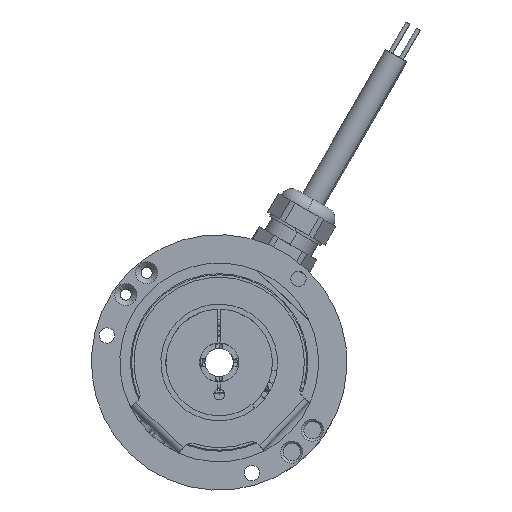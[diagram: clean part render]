
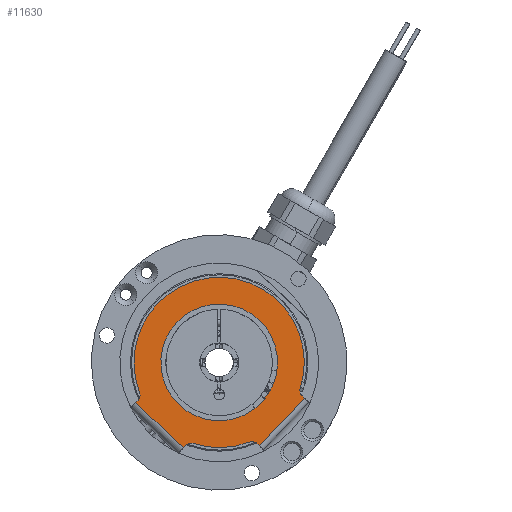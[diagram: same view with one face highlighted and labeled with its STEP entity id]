
A CAD part, left-side view. The second image highlights one B-rep face of the part: STEP entity #11630.
In plain terms, the highlighted planar face has unit normal (-1, 0, 0).
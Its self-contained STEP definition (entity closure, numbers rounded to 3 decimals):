
#2858 = VERTEX_POINT ( 'NONE', #20457 ) ;
#2882 = VERTEX_POINT ( 'NONE', #20460 ) ;
#2920 = VERTEX_POINT ( 'NONE', #6247 ) ;
#2973 = VERTEX_POINT ( 'NONE', #6027 ) ;
#3029 = VERTEX_POINT ( 'NONE', #6066 ) ;
#3063 = EDGE_LOOP ( 'NONE', ( #8996, #8871, #9002, #9046, #8956, #8932, #8914, #9054, #8942, #9048, #8921, #8882, #9035 ) ) ;
#3274 = EDGE_LOOP ( 'NONE', ( #9015, #9010 ) ) ;
#5596 = AXIS2_PLACEMENT_3D ( 'NONE', #10215, #10216, #10217 ) ;
#5597 = AXIS2_PLACEMENT_3D ( 'NONE', #10220, #10221, #10222 ) ;
#5598 = AXIS2_PLACEMENT_3D ( 'NONE', #10223, #10224, #10225 ) ;
#5599 = AXIS2_PLACEMENT_3D ( 'NONE', #10232, #10233, #10234 ) ;
#5600 = AXIS2_PLACEMENT_3D ( 'NONE', #10237, #10238, #10239 ) ;
#6027 = CARTESIAN_POINT ( 'NONE',  ( -2.2, -24.066, -10.086 ) ) ;
#6066 = CARTESIAN_POINT ( 'NONE',  ( -2.2, -23.37, -9.425 ) ) ;
#6247 = CARTESIAN_POINT ( 'NONE',  ( -2.2, -10.636, -22.845 ) ) ;
#7024 = CARTESIAN_POINT ( 'NONE',  ( -2.2, 0., 0. ) ) ;
#7027 = PLANE ( 'NONE',  #22266 ) ;
#7029 = DIRECTION ( 'NONE',  ( -1., 0., 0. ) ) ;
#7030 = DIRECTION ( 'NONE',  ( 0., -0.725, -0.688 ) ) ;
#8183 = CARTESIAN_POINT ( 'NONE',  ( -2.2, 11.914, 11.306 ) ) ;
#8243 = CARTESIAN_POINT ( 'NONE',  ( -2.2, -11.914, -11.306 ) ) ;
#8278 = CARTESIAN_POINT ( 'NONE',  ( -2.2, 9.425, -23.37 ) ) ;
#8360 = CARTESIAN_POINT ( 'NONE',  ( -2.2, 17.409, 16.521 ) ) ;
#8410 = CARTESIAN_POINT ( 'NONE',  ( -2.2, 22.427, -8.547 ) ) ;
#8411 = CARTESIAN_POINT ( 'NONE',  ( -2.2, -22.843, -7.361 ) ) ;
#8467 = CARTESIAN_POINT ( 'NONE',  ( -2.2, 10.086, -24.066 ) ) ;
#8517 = CARTESIAN_POINT ( 'NONE',  ( -2.2, 7.361, -22.843 ) ) ;
#8529 = CARTESIAN_POINT ( 'NONE',  ( -2.2, 22.845, -10.636 ) ) ;
#8562 = CARTESIAN_POINT ( 'NONE',  ( -2.2, 23.506, -11.332 ) ) ;
#8871 = ORIENTED_EDGE ( 'NONE', *, *, #15061, .T. ) ;
#8882 = ORIENTED_EDGE ( 'NONE', *, *, #15079, .T. ) ;
#8914 = ORIENTED_EDGE ( 'NONE', *, *, #15074, .T. ) ;
#8921 = ORIENTED_EDGE ( 'NONE', *, *, #15078, .T. ) ;
#8932 = ORIENTED_EDGE ( 'NONE', *, *, #15073, .T. ) ;
#8942 = ORIENTED_EDGE ( 'NONE', *, *, #15076, .T. ) ;
#8956 = ORIENTED_EDGE ( 'NONE', *, *, #15072, .T. ) ;
#8996 = ORIENTED_EDGE ( 'NONE', *, *, #15069, .T. ) ;
#9002 = ORIENTED_EDGE ( 'NONE', *, *, #15070, .T. ) ;
#9010 = ORIENTED_EDGE ( 'NONE', *, *, #15081, .F. ) ;
#9015 = ORIENTED_EDGE ( 'NONE', *, *, #15057, .F. ) ;
#9035 = ORIENTED_EDGE ( 'NONE', *, *, #15080, .T. ) ;
#9046 = ORIENTED_EDGE ( 'NONE', *, *, #15071, .T. ) ;
#9048 = ORIENTED_EDGE ( 'NONE', *, *, #15077, .T. ) ;
#9054 = ORIENTED_EDGE ( 'NONE', *, *, #15075, .T. ) ;
#9468 = AXIS2_PLACEMENT_3D ( 'NONE', #10178, #10179, #10180 ) ;
#9470 = AXIS2_PLACEMENT_3D ( 'NONE', #10188, #10189, #10190 ) ;
#9472 = AXIS2_PLACEMENT_3D ( 'NONE', #10205, #10206, #10207 ) ;
#9473 = AXIS2_PLACEMENT_3D ( 'NONE', #10208, #10209, #10210 ) ;
#10178 = CARTESIAN_POINT ( 'NONE',  ( -2.2, 0., 0. ) ) ;
#10179 = DIRECTION ( 'NONE',  ( -1., 0., 0. ) ) ;
#10180 = DIRECTION ( 'NONE',  ( 0., -0.725, -0.688 ) ) ;
#10188 = CARTESIAN_POINT ( 'NONE',  ( -2.2, 0., 0. ) ) ;
#10189 = DIRECTION ( 'NONE',  ( -1., 0., 0. ) ) ;
#10190 = DIRECTION ( 'NONE',  ( 0., -0.725, -0.688 ) ) ;
#10203 = CARTESIAN_POINT ( 'NONE',  ( -2.2, 21.954, -9.697 ) ) ;
#10204 = DIRECTION ( 'NONE',  ( 0., 0.688, -0.725 ) ) ;
#10205 = CARTESIAN_POINT ( 'NONE',  ( -2.2, 0., 0. ) ) ;
#10206 = DIRECTION ( 'NONE',  ( -1., 0., 0. ) ) ;
#10207 = DIRECTION ( 'NONE',  ( 0., -0.725, -0.688 ) ) ;
#10208 = CARTESIAN_POINT ( 'NONE',  ( -2.2, 24.296, -9.259 ) ) ;
#10209 = DIRECTION ( 'NONE',  ( 1., 0., 0. ) ) ;
#10210 = DIRECTION ( 'NONE',  ( 0., -0.725, -0.688 ) ) ;
#10211 = CARTESIAN_POINT ( 'NONE',  ( -2.2, 16.796, -17.699 ) ) ;
#10212 = DIRECTION ( 'NONE',  ( 0., -0.725, -0.688 ) ) ;
#10213 = CARTESIAN_POINT ( 'NONE',  ( -2.2, 8.534, -22.431 ) ) ;
#10214 = DIRECTION ( 'NONE',  ( 0., -0.688, 0.725 ) ) ;
#10215 = CARTESIAN_POINT ( 'NONE',  ( -2.2, 7.975, -24.747 ) ) ;
#10216 = DIRECTION ( 'NONE',  ( 1., 0., 0. ) ) ;
#10217 = DIRECTION ( 'NONE',  ( 0., -0.725, -0.688 ) ) ;
#10218 = CARTESIAN_POINT ( 'NONE',  ( -2.2, -9.697, -21.954 ) ) ;
#10219 = DIRECTION ( 'NONE',  ( 0., -0.725, -0.688 ) ) ;
#10220 = CARTESIAN_POINT ( 'NONE',  ( -2.2, 0., 0. ) ) ;
#10221 = DIRECTION ( 'NONE',  ( -1., 0., 0. ) ) ;
#10222 = DIRECTION ( 'NONE',  ( 0., -0.725, -0.688 ) ) ;
#10223 = CARTESIAN_POINT ( 'NONE',  ( -2.2, -9.259, -24.296 ) ) ;
#10224 = DIRECTION ( 'NONE',  ( 1., 0., 0. ) ) ;
#10225 = DIRECTION ( 'NONE',  ( 0., -0.725, -0.688 ) ) ;
#10226 = CARTESIAN_POINT ( 'NONE',  ( -2.2, -24.066, -10.086 ) ) ;
#10227 = DIRECTION ( 'NONE',  ( 0., -0.688, 0.725 ) ) ;
#10228 = CARTESIAN_POINT ( 'NONE',  ( -2.2, -22.431, -8.534 ) ) ;
#10229 = DIRECTION ( 'NONE',  ( 0., 0.725, 0.688 ) ) ;
#10232 = CARTESIAN_POINT ( 'NONE',  ( -2.2, -24.747, -7.975 ) ) ;
#10233 = DIRECTION ( 'NONE',  ( 1., 0., 0. ) ) ;
#10234 = DIRECTION ( 'NONE',  ( 0., -0.725, -0.688 ) ) ;
#10237 = CARTESIAN_POINT ( 'NONE',  ( -2.2, 0., 0. ) ) ;
#10238 = DIRECTION ( 'NONE',  ( -1., 0., 0. ) ) ;
#10239 = DIRECTION ( 'NONE',  ( 0., -0.725, -0.688 ) ) ;
#11630 = ADVANCED_FACE ( 'NONE', ( #15723, #15728 ), #7027, .T. ) ;
#13105 = VERTEX_POINT ( 'NONE', #8183 ) ;
#13269 = VERTEX_POINT ( 'NONE', #8243 ) ;
#13369 = VERTEX_POINT ( 'NONE', #8278 ) ;
#13576 = VERTEX_POINT ( 'NONE', #8360 ) ;
#13749 = VERTEX_POINT ( 'NONE', #8410 ) ;
#13750 = VERTEX_POINT ( 'NONE', #8411 ) ;
#13806 = VERTEX_POINT ( 'NONE', #8467 ) ;
#13856 = VERTEX_POINT ( 'NONE', #8517 ) ;
#13868 = VERTEX_POINT ( 'NONE', #8529 ) ;
#13901 = VERTEX_POINT ( 'NONE', #8562 ) ;
#15057 = EDGE_CURVE ( 'NONE', #13105, #13269, #18676, .T. ) ;
#15061 = EDGE_CURVE ( 'NONE', #13576, #13749, #18687, .T. ) ;
#15069 = EDGE_CURVE ( 'NONE', #13750, #13576, #18712, .T. ) ;
#15070 = EDGE_CURVE ( 'NONE', #13749, #13868, #18717, .T. ) ;
#15071 = EDGE_CURVE ( 'NONE', #13868, #13901, #18719, .T. ) ;
#15072 = EDGE_CURVE ( 'NONE', #13901, #13806, #18720, .T. ) ;
#15073 = EDGE_CURVE ( 'NONE', #13806, #13369, #18723, .T. ) ;
#15074 = EDGE_CURVE ( 'NONE', #13369, #13856, #18728, .T. ) ;
#15075 = EDGE_CURVE ( 'NONE', #13856, #2882, #18732, .T. ) ;
#15076 = EDGE_CURVE ( 'NONE', #2882, #2920, #18734, .T. ) ;
#15077 = EDGE_CURVE ( 'NONE', #2920, #2858, #18736, .T. ) ;
#15078 = EDGE_CURVE ( 'NONE', #2858, #2973, #18739, .T. ) ;
#15079 = EDGE_CURVE ( 'NONE', #2973, #3029, #18743, .T. ) ;
#15080 = EDGE_CURVE ( 'NONE', #3029, #13750, #18747, .T. ) ;
#15081 = EDGE_CURVE ( 'NONE', #13269, #13105, #18752, .T. ) ;
#15723 = FACE_OUTER_BOUND ( 'NONE', #3063, .T. ) ;
#15728 = FACE_BOUND ( 'NONE', #3274, .T. ) ;
#18676 = CIRCLE ( 'NONE', #9468, 16.425 ) ;
#18687 = CIRCLE ( 'NONE', #9470, 24. ) ;
#18712 = CIRCLE ( 'NONE', #9472, 24. ) ;
#18717 = CIRCLE ( 'NONE', #9473, 2. ) ;
#18719 = LINE ( 'NONE', #10203, #18721 ) ;
#18720 = LINE ( 'NONE', #10211, #18726 ) ;
#18721 = VECTOR ( 'NONE', #10204, 1000. ) ;
#18723 = LINE ( 'NONE', #10213, #18730 ) ;
#18726 = VECTOR ( 'NONE', #10212, 1000. ) ;
#18728 = CIRCLE ( 'NONE', #5596, 2. ) ;
#18730 = VECTOR ( 'NONE', #10214, 1000. ) ;
#18732 = CIRCLE ( 'NONE', #5597, 24. ) ;
#18734 = CIRCLE ( 'NONE', #5598, 2. ) ;
#18736 = LINE ( 'NONE', #10218, #18741 ) ;
#18739 = LINE ( 'NONE', #10226, #18745 ) ;
#18741 = VECTOR ( 'NONE', #10219, 1000. ) ;
#18743 = LINE ( 'NONE', #10228, #18749 ) ;
#18745 = VECTOR ( 'NONE', #10227, 1000. ) ;
#18747 = CIRCLE ( 'NONE', #5599, 2. ) ;
#18749 = VECTOR ( 'NONE', #10229, 1000. ) ;
#18752 = CIRCLE ( 'NONE', #5600, 16.425 ) ;
#20457 = CARTESIAN_POINT ( 'NONE',  ( -2.2, -11.332, -23.506 ) ) ;
#20460 = CARTESIAN_POINT ( 'NONE',  ( -2.2, -8.547, -22.427 ) ) ;
#22266 = AXIS2_PLACEMENT_3D ( 'NONE', #7024, #7029, #7030 ) ;
